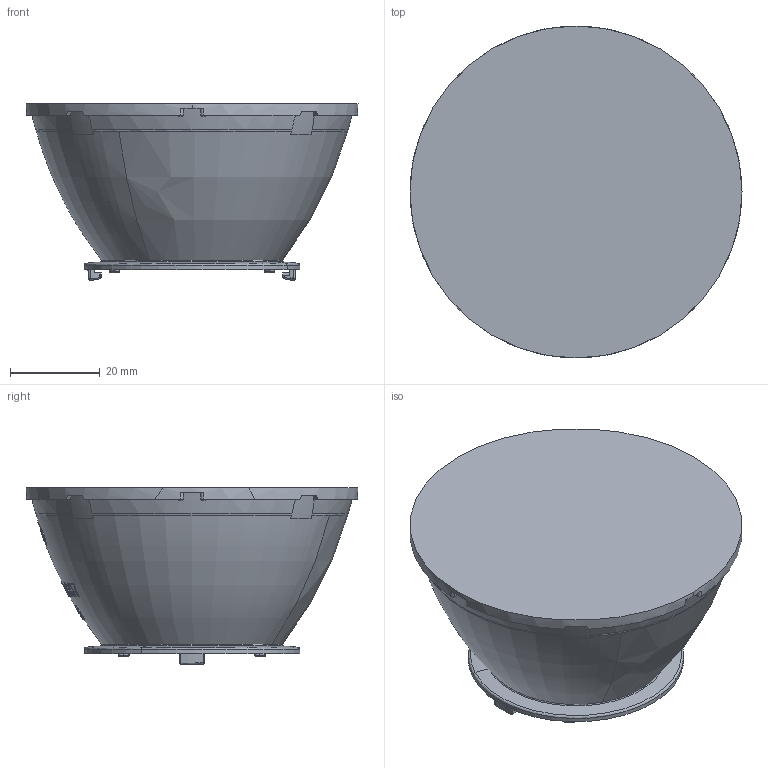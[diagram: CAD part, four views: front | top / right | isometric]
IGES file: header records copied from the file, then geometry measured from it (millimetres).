
Global section: file name: C:\CoreTechnologie\3D-In/model1.igs; native system: CT CoreTechnologie 3D Evolution; preprocessor: 2006; author: CT CoreTechnologie; organization: CT CoreTechnologie; date: 220506.101606; units: millimetre
Bounding box: 74 x 74 x 39.25 mm (x, y, z)
Volume: 103783.6 mm3; surface area: 14497.9 mm2
Topology: 1 solids, 1 shells, 338 faces, 872 edges, 571 vertices
Faces by surface type: plane 148, revolution 125, bspline 65
